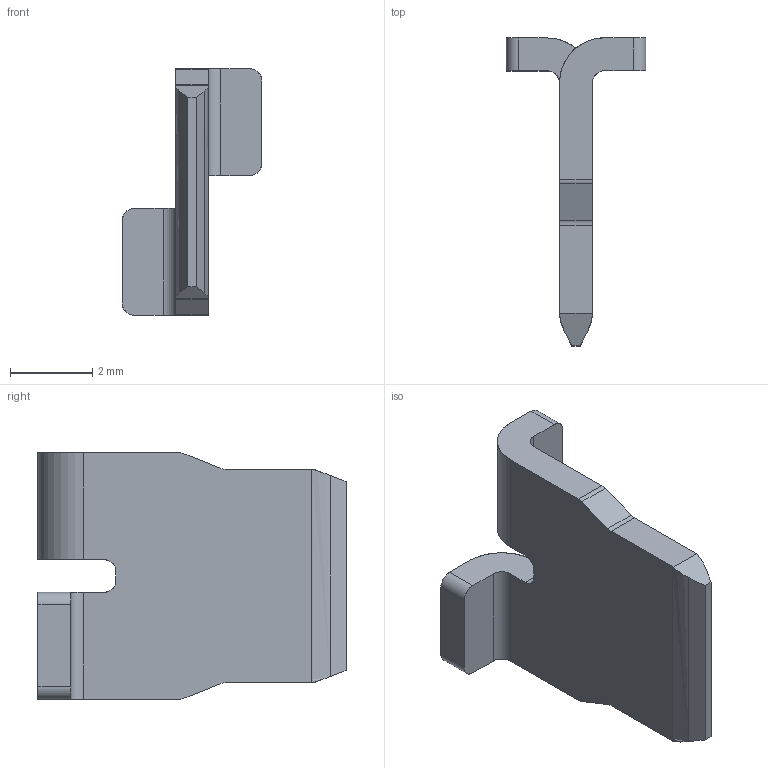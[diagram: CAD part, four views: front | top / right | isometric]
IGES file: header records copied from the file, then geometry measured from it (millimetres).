
Start section: SolidWorks IGES file using analytic representation for surfaces
Global section: file name: C:\3dwork\tanaka\AP-10\20220401_ALLŒü‚¯AP-10 H=7.5  14.5mm\IGES\3531-0001-00T_AP-10 PLUG IGES R1 ALL.IGS; native system: SolidWorks 2020; preprocessor: SolidWorks 2020; author: 83114; date: 220401.165811; units: millimetre
Bounding box: 3.4 x 7.5 x 6 mm (x, y, z)
Surface area: 114.9 mm2 (no closed solid volume)
Topology: 0 solids, 0 shells, 38 faces, 300 edges, 300 vertices
Faces by surface type: bspline 22, revolution 16
